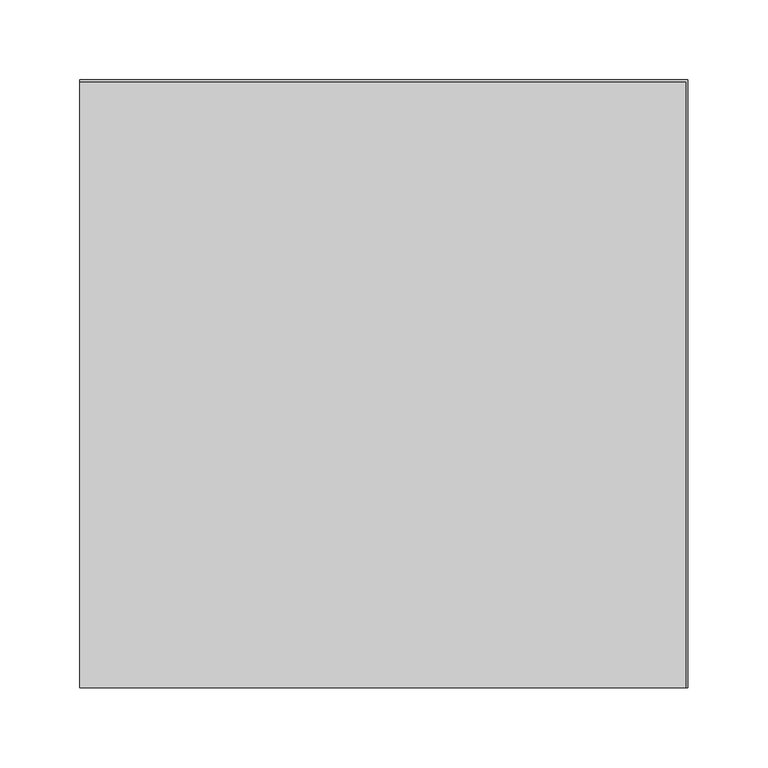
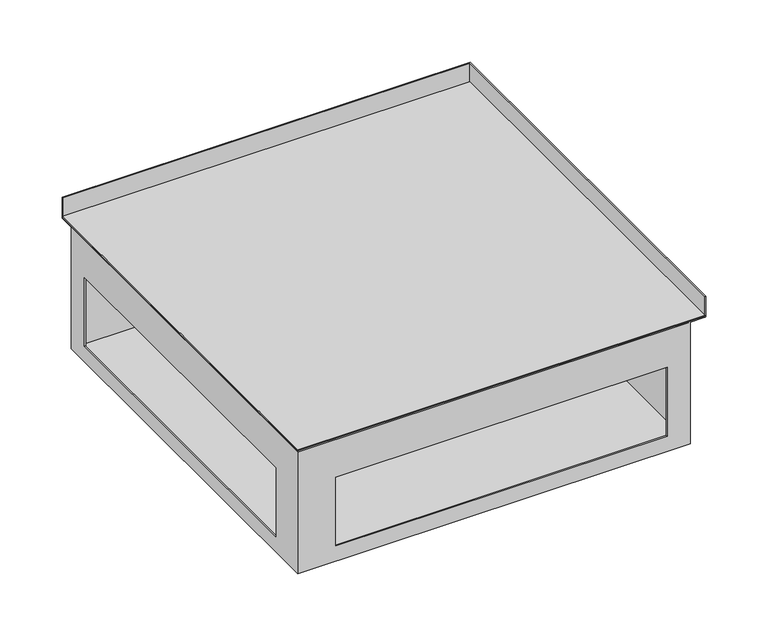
"""IFC4 building model written with IfcOpenShell, lengths in millimetres: proxy geometry, TECHNO_Угловой элемент_KVU : 380_140_90°."""

from ifc_helpers import new_model, si_unit, frame, origin, place, context, project, spatial, polyline, circle_curve, ellipse_curve, outline, extrude, source, transform, mapped, element, save
from ifc_brep_helpers import plane_surface, cylinder_surface, advanced_brep


def mechanical_equipment_dc4bdf0c(model_context):
    return source(origin(), model_context, "Body", "SolidModel", [
        extrude(outline(polyline([(0.0, 188.8), (378.8, 188.8), (378.8, -190.0), (0.0, -190.0), (0.0, 188.8)])), frame((0.0, 0.0, -19.3), z_axis=(0.0, 0.0, 1.0), x_axis=(1.0, 0.0, 0.0)), (0.0, 0.0, 1.0), 1.2),
        advanced_brep(
        [(1.2, 174.0, -138.8), (1.2, -188.8, -138.8), (364.0, -188.8, -138.8), (364.0, 174.0, -138.8), (0.0, 175.2, -140.0), (365.2, 175.2, -140.0), (365.2, -190.0, -140.0), (0.0, -190.0, -140.0), (0.0, 175.2, -20.5), (0.0, -190.0, -20.5), (0.0, 174.0, -20.5), (0.0, 175.2, -19.3), (0.0, 188.8, -19.3), (0.0, 188.8, 0.0), (0.0, 190.0, 0.0), (0.0, 190.0, -19.3), (0.0, 188.8, -20.5), (0.0, -154.5, -57.5), (0.0, -154.5, -125.0), (0.0, 153.9, -125.0), (0.0, 153.9, -57.5), (365.2, -190.0, -20.5), (378.8, -190.0, -20.5), (380.0, -190.0, -19.3), (380.0, -190.0, 0.0), (378.8, -190.0, 0.0), (378.8, -190.0, -19.3), (365.2, -190.0, -19.3), (364.0, -190.0, -20.5), (35.5, -190.0, -125.0), (35.5, -190.0, -57.5), (343.9, -190.0, -57.5), (343.9, -190.0, -125.0), (365.2, 175.2, -20.5), (1.2, 175.2, -19.3), (1.2, -188.8, -19.3), (365.2, -188.8, -19.3), (378.8, 188.8, -19.3), (365.2, -174.0, -19.3), (16.0, -174.0, -19.3), (16.0, 175.2, -19.3), (365.2, 175.2, -19.3), (16.0, -174.0, -20.5), (16.0, 174.0, -20.5), (364.0, -174.0, -20.5), (364.0, -188.8, -20.5), (1.2, -188.8, -20.5), (1.2, 174.0, -20.5), (1.2, -154.5, -125.0), (1.2, -154.5, -57.5), (1.2, 153.9, -57.5), (1.2, 153.9, -125.0), (35.5, -188.8, -57.5), (35.5, -188.8, -125.0), (343.9, -188.8, -125.0), (343.9, -188.8, -57.5), (380.0, 190.0, -19.3), (380.0, 190.0, 0.0), (378.8, 188.8, 0.0), (378.8, 188.8, -20.5), (364.0, 174.0, -20.5)],
        [
            (0, 1),
            (1, 2),
            (2, 3),
            (3, 0),
            (4, 5),
            (5, 6),
            (6, 7),
            (7, 4),
            (8, 4),
            (7, 9),
            (9, 10),
            (10, 11, circle_curve(frame((0.0, 175.2, -20.5), z_axis=(-1.0, 0.0, 0.0), x_axis=(0.0, -1.0, 0.0)), 1.2)),
            (11, 12),
            (12, 13),
            (13, 14),
            (14, 15),
            (15, 16, circle_curve(frame((0.0, 188.8, -19.3), z_axis=(-1.0, 0.0, 0.0), x_axis=(0.0, -1.0, 0.0)), 1.2)),
            (16, 8),
            (17, 18),
            (18, 19),
            (19, 20),
            (20, 17),
            (6, 21),
            (21, 22),
            (22, 23, circle_curve(frame((378.8, -190.0, -19.3), z_axis=(0.0, -1.0, 0.0), x_axis=(-1.0, 0.0, 0.0)), 1.2)),
            (23, 24),
            (24, 25),
            (25, 26),
            (26, 27),
            (27, 28, circle_curve(frame((365.2, -190.0, -20.5), z_axis=(0.0, -1.0, 0.0), x_axis=(-1.0, 0.0, 0.0)), 1.2)),
            (28, 9),
            (29, 30),
            (30, 31),
            (31, 32),
            (32, 29),
            (8, 33),
            (33, 5),
            (33, 21),
            (34, 35),
            (35, 36),
            (36, 27),
            (26, 37),
            (37, 12),
            (11, 34),
            (38, 39),
            (39, 40),
            (40, 41),
            (41, 38),
            (39, 42),
            (42, 43),
            (43, 40, circle_curve(frame((16.0, 175.2, -20.5), z_axis=(-1.0, 0.0, 0.0), x_axis=(0.0, -1.0, 0.0)), 1.2)),
            (38, 44, circle_curve(frame((365.2, -174.0, -20.5), z_axis=(0.0, -1.0, 0.0), x_axis=(-1.0, 0.0, 0.0)), 1.2)),
            (44, 42),
            (44, 45),
            (45, 46),
            (46, 47),
            (47, 43),
            (46, 1),
            (0, 47),
            (48, 49),
            (49, 50),
            (50, 51),
            (51, 48),
            (45, 2),
            (52, 53),
            (53, 54),
            (54, 55),
            (55, 52),
            (34, 10, ellipse_curve(frame((1.2, 175.2, -20.5), z_axis=(0.7071067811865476, -0.7071067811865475, 0.0), x_axis=(0.7071067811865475, 0.7071067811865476, 0.0)), 1.6970563, 1.2)),
            (9, 35, ellipse_curve(frame((1.2, -188.8, -20.5), z_axis=(-0.7071067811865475, 0.7071067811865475, 0.0), x_axis=(0.7071067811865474, 0.7071067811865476, 0.0)), 1.6970563, 1.2)),
            (28, 36, ellipse_curve(frame((365.2, -188.8, -20.5), z_axis=(-0.7071067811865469, 0.707106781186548, 0.0), x_axis=(-0.7071067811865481, -0.7071067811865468, 0.0)), 1.6970563, 1.2)),
            (23, 56),
            (56, 57),
            (57, 24),
            (57, 14),
            (13, 58),
            (58, 25),
            (58, 37),
            (16, 59),
            (59, 22),
            (59, 56, ellipse_curve(frame((378.8, 188.8, -19.3), z_axis=(0.707106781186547, -0.707106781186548, 0.0), x_axis=(-0.707106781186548, -0.707106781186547, 0.0)), 1.6970563, 1.2)),
            (56, 15),
            (41, 60, ellipse_curve(frame((365.2, 175.2, -20.5), z_axis=(0.707106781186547, -0.707106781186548, 0.0), x_axis=(-0.707106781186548, -0.707106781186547, 0.0)), 1.6970563, 1.2)),
            (60, 44),
            (60, 3),
            (43, 60),
            (48, 18),
            (17, 49),
            (51, 19),
            (50, 20),
            (52, 30),
            (29, 53),
            (55, 31),
            (54, 32),
        ],
        [
            plane_surface(frame((0.0, 174.0, -138.8), z_axis=(0.0, 0.0, 1.0), x_axis=(0.0, -1.0, 0.0))),
            plane_surface(frame((0.0, 174.0, -140.0), z_axis=(0.0, 0.0, -1.0), x_axis=(0.0, 1.0, 0.0))),
            plane_surface(frame((0.0, 174.0, -138.8), z_axis=(-1.0, 0.0, 0.0), x_axis=(0.0, 0.0, -1.0))),
            plane_surface(frame((0.0, -190.0, -138.8), z_axis=(0.0, -1.0, 0.0), x_axis=(0.0, 0.0, -1.0))),
            plane_surface(frame((0.0, 175.2, -140.0), z_axis=(0.0, 1.0, 0.0), x_axis=(0.0, 0.0, -1.0))),
            plane_surface(frame((365.2, -190.0, -140.0), z_axis=(1.0, 0.0, 0.0), x_axis=(0.0, 0.0, -1.0))),
            plane_surface(frame((1.2, 175.2, -19.3), z_axis=(0.0, 0.0, 1.0), x_axis=(0.0, -1.0, 0.0))),
            plane_surface(frame((16.0, 175.2, -19.3), z_axis=(1.0, 0.0, 0.0), x_axis=(0.0, -1.0, 0.0))),
            plane_surface(frame((16.0, -174.0, -19.3), z_axis=(0.0, 1.0, 0.0), x_axis=(1.0, 0.0, 0.0))),
            plane_surface(frame((16.0, 175.2, -20.5), z_axis=(0.0, 0.0, -1.0), x_axis=(0.0, -1.0, 0.0))),
            plane_surface(frame((1.2, 175.2, -20.5), z_axis=(1.0, 0.0, 0.0), x_axis=(0.0, -1.0, 0.0))),
            plane_surface(frame((1.2, -188.8, -20.5), z_axis=(0.0, 1.0, 0.0), x_axis=(1.0, 0.0, 0.0))),
            cylinder_surface(frame((1.2, 175.2, -20.5), z_axis=(0.0, 1.0, 0.0), x_axis=(-1.0, 0.0, 0.0)), 1.2),
            cylinder_surface(frame((0.0, -188.8, -20.5), z_axis=(-1.0, 0.0, 0.0), x_axis=(0.0, -1.0, 0.0)), 1.2),
            plane_surface(frame((380.0, -190.0, -19.3), z_axis=(1.0, 0.0, 0.0), x_axis=(0.0, 1.0, 0.0))),
            plane_surface(frame((380.0, -190.0, 0.0), z_axis=(0.0, 0.0, 1.0), x_axis=(0.0, 1.0, 0.0))),
            plane_surface(frame((378.8, -190.0, 0.0), z_axis=(-1.0, 0.0, 0.0), x_axis=(0.0, 1.0, 0.0))),
            plane_surface(frame((365.2, -190.0, -20.5), z_axis=(0.0, 0.0, -1.0), x_axis=(0.0, 1.0, 0.0))),
            cylinder_surface(frame((378.8, -190.0, -19.3), z_axis=(0.0, -1.0, 0.0), x_axis=(-1.0, 0.0, 0.0)), 1.2),
            plane_surface(frame((380.0, 190.0, -19.3), z_axis=(0.0, 1.0, 0.0), x_axis=(-1.0, 0.0, 0.0))),
            plane_surface(frame((378.8, 188.8, 0.0), z_axis=(0.0, -1.0, 0.0), x_axis=(-1.0, 0.0, 0.0))),
            cylinder_surface(frame((190.0, 188.8, -19.3), z_axis=(1.0, 0.0, 0.0), x_axis=(0.0, -1.0, 0.0)), 1.2),
            cylinder_surface(frame((365.2, -190.0, -20.5), z_axis=(0.0, -1.0, 0.0), x_axis=(-1.0, 0.0, 0.0)), 1.2),
            plane_surface(frame((364.0, -190.0, -20.5), z_axis=(-1.0, 0.0, 0.0), x_axis=(0.0, 1.0, 0.0))),
            cylinder_surface(frame((190.0, 175.2, -20.5), z_axis=(1.0, 0.0, 0.0), x_axis=(0.0, -1.0, 0.0)), 1.2),
            plane_surface(frame((364.0, 174.0, -20.5), z_axis=(0.0, -1.0, 0.0), x_axis=(-1.0, 0.0, 0.0))),
            plane_surface(frame((1.2, -154.5, -57.5), z_axis=(0.0, 1.0, 0.0), x_axis=(-1.0, 0.0, 0.0))),
            plane_surface(frame((1.2, -154.5, -125.0), z_axis=(0.0, 0.0, 1.0), x_axis=(-1.0, 0.0, 0.0))),
            plane_surface(frame((1.2, 153.9, -125.0), z_axis=(0.0, -1.0, 0.0), x_axis=(-1.0, 0.0, 0.0))),
            plane_surface(frame((1.2, 153.9, -57.5), z_axis=(0.0, 0.0, -1.0), x_axis=(-1.0, 0.0, 0.0))),
            plane_surface(frame((35.5, -188.8, -125.0), z_axis=(1.0, 0.0, 0.0), x_axis=(0.0, -1.0, 0.0))),
            plane_surface(frame((35.5, -188.8, -57.5), z_axis=(0.0, 0.0, -1.0), x_axis=(0.0, -1.0, 0.0))),
            plane_surface(frame((343.9, -188.8, -57.5), z_axis=(-1.0, 0.0, 0.0), x_axis=(0.0, -1.0, 0.0))),
            plane_surface(frame((343.9, -188.8, -125.0), z_axis=(0.0, 0.0, 1.0), x_axis=(0.0, -1.0, 0.0))),
        ],
        [
            (0, [[1, 2, 3, 4]]),
            (1, [[5, 6, 7, 8]]),
            (2, [[9, -8, 10, 11, 12, 13, 14, 15, 16, 17, 18], [19, 20, 21, 22]]),
            (3, [[23, 24, 25, 26, 27, 28, 29, 30, 31, -10, -7], [32, 33, 34, 35]]),
            (4, [[-9, 36, 37, -5]]),
            (5, [[-23, -6, -37, 38]]),
            (6, [[39, 40, 41, -29, 42, 43, -13, 44], [45, 46, 47, 48]]),
            (7, [[-46, 49, 50, 51]]),
            (8, [[-45, 52, 53, -49]]),
            (9, [[-50, -53, 54, 55, 56, 57]]),
            (10, [[58, -1, 59, -56], [60, 61, 62, 63]]),
            (11, [[-58, -55, 64, -2], [65, 66, 67, 68]]),
            (12, [[-39, 69, -11, 70]]),
            (13, [[-40, -70, -31, 71]]),
            (14, [[-26, 72, 73, 74]]),
            (15, [[-27, -74, 75, -15, 76, 77]]),
            (16, [[-28, -77, 78, -42]]),
            (17, [[-24, -38, -36, -18, 79, 80]]),
            (18, [[-25, -80, 81, -72]]),
            (19, [[-73, 82, -16, -75]]),
            (20, [[-76, -14, -43, -78]]),
            (21, [[-79, -17, -82, -81]]),
            (22, [[-30, -41, -71]]),
            (22, [[83, 84, -52, -48]]),
            (23, [[85, -3, -64, -54, -84]]),
            (24, [[-12, -69, -44]]),
            (24, [[-83, -47, -51, 86]]),
            (25, [[-85, -86, -57, -59, -4]]),
            (26, [[87, -19, 88, -60]]),
            (27, [[-87, -63, 89, -20]]),
            (28, [[-89, -62, 90, -21]]),
            (29, [[-88, -22, -90, -61]]),
            (30, [[91, -32, 92, -65]]),
            (31, [[-91, -68, 93, -33]]),
            (32, [[-93, -67, 94, -34]]),
            (33, [[-92, -35, -94, -66]]),
        ],
    ),
    ])


if __name__ == "__main__":
    model = new_model("IFC4")
    model_context = context("Model", 3, world=origin())
    ifc_project = project(units=[si_unit("LENGTHUNIT", "METRE", prefix="MILLI")], contexts=[model_context])
    site = spatial("IfcSite", under=ifc_project)
    building = spatial("IfcBuilding", under=site)
    placement = place(None, origin())
    mechanical_equipment_shape = mechanical_equipment_dc4bdf0c(model_context)
    element("IfcBuildingElementProxy", 1, Name="TECHNO_Угловой элемент_KVU : 380_140_90°", ObjectType="TECHNO_Угловой элемент_KVU : 380_140_90°", at=placement, inside=building, context=model_context, shape_type="MappedRepresentation", body=[
        mapped(mechanical_equipment_shape, transform((0.0, 0.0, 0.0), x_axis=(1.0, 0.0, 0.0), y_axis=(0.0, 1.0, 0.0), z_axis=(0.0, 0.0, 1.0))),
    ])
    save(model, "model.ifc")
